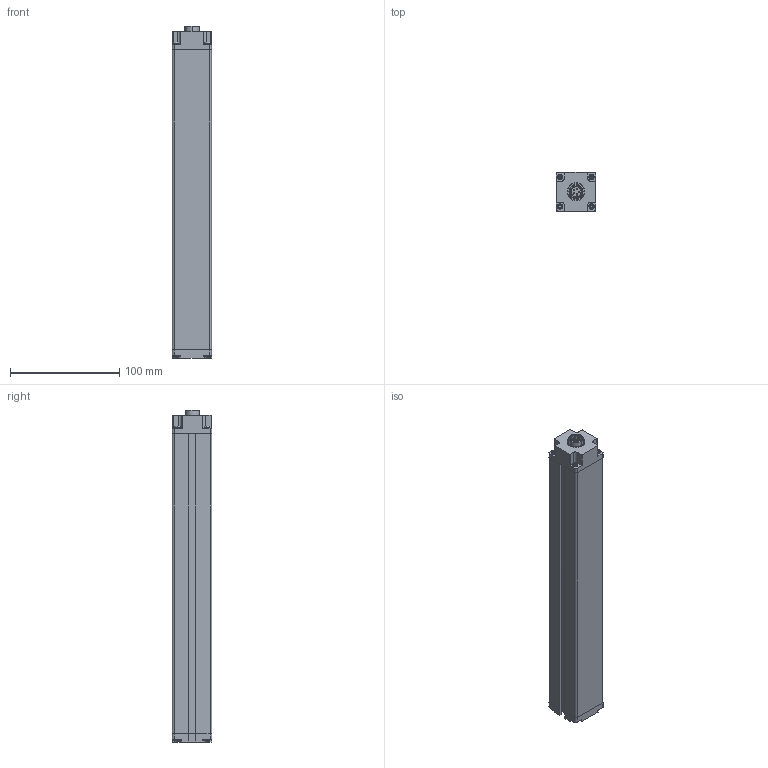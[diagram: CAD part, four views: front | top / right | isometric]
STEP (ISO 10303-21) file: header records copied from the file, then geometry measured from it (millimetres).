
FILE_DESCRIPTION((''),'2;1');
FILE_NAME('HG-0640-LEFT_ASM','2020-03-25T',('Administrator'),(''),'PRO/ENGINEER BY PARAMETRIC TECHNOLOGY CORPORATION, 2010280','PRO/ENGINEER BY PARAMETRIC TECHNOLOGY CORPORATION, 2010280','');
FILE_SCHEMA(('AUTOMOTIVE_DESIGN { 1 2 10303 214 0 1 1 1 }'));
Length unit declared in the file: millimetre
Products named in the file (11): HG-0640-SHELL-LEFT; HG-0640-PCB-LEFT; HG-0640-LED-5MM; HG-0640-WINDOWS; HG-0640-COVER-TOP; HG-06640-COVER-BOTTOM; HG-0640-M13-5PIN; HG-0640-M3-10; HG-0640-ANXIE_LOGO; HG-0640-TEXT-LEFT; HG-0640-LEFT_ASM
Assembly tree (22 placements, depth 2):
  HG-0640-LEFT_ASM
    HG-0640-SHELL-LEFT
    HG-0640-PCB-LEFT
    HG-0640-LED-5MM  x6
    HG-0640-WINDOWS
    HG-0640-COVER-TOP
    HG-06640-COVER-BOTTOM
    HG-0640-M13-5PIN
    HG-0640-M3-10  x8
    HG-0640-ANXIE_LOGO
    HG-0640-TEXT-LEFT
Bounding box: 35.8 x 36.2 x 304.4 mm (x, y, z)
Volume: 148145.5 mm3; surface area: 136333.7 mm2
Topology: 50 solids, 50 shells, 1389 faces, 3658 edges, 2394 vertices
Faces by surface type: plane 785, cylinder 320, extrusion 144, bspline 74, torus 34, cone 20, sphere 12
Entity records: 38204 total; most frequent: CARTESIAN_POINT 8822, ORIENTED_EDGE 4680, DIRECTION 3843, PRESENTATION_STYLE_ASSIGNMENT 2378, STYLED_ITEM 2378, CURVE_STYLE 2340, EDGE_CURVE 2340, VECTOR 1919
